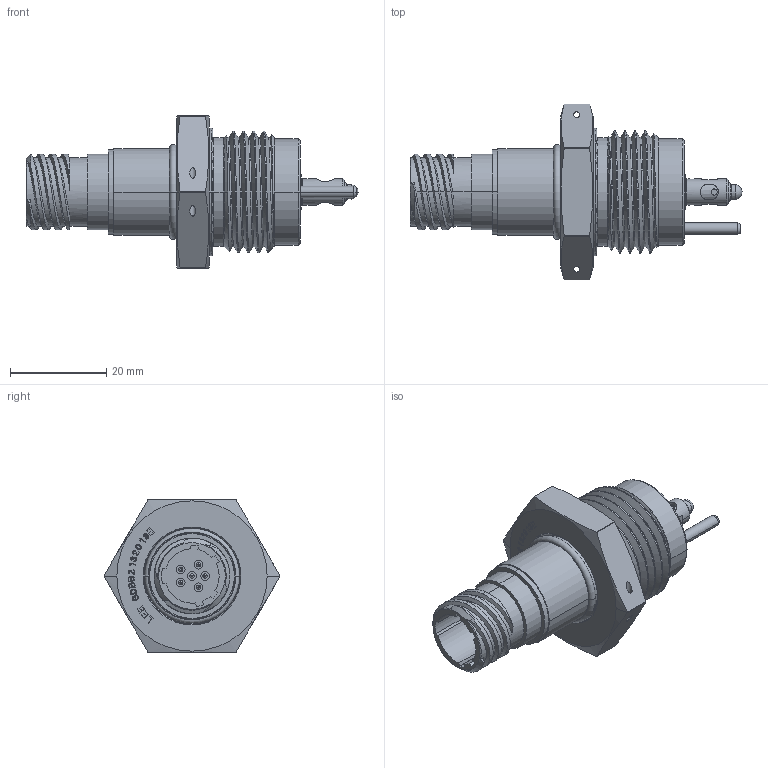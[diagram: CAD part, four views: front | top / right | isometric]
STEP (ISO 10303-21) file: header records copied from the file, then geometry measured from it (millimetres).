
FILE_DESCRIPTION(('Creo Elements/Direct Modeling STEP Export'),'2;1');
FILE_NAME('SDBB2132013E.stp','2021-03-30T11:14:23',(''),(''),'Creo Elements/Direct Modeling STEP processor for AP214 (Solid Model)','Creo Elements/Direct Modeling 18.1 03-Mar-2012 (C) Parametric Technology GmbH','');
FILE_SCHEMA(('AUTOMOTIVE_DESIGN { 1 0 10303 214 1 1 1 1 }'));
Length unit declared in the file: millimetre
Products named in the file (1): SDBB2132013E
Bounding box: 69.06 x 36.58 x 31.75 mm (x, y, z)
Volume: 19224.9 mm3; surface area: 7428 mm2
Topology: 1 solids, 1 shells, 831 faces, 2317 edges, 1540 vertices
Faces by surface type: plane 646, cylinder 116, cone 33, torus 26, bspline 8, sphere 2
Entity records: 28539 total; most frequent: CARTESIAN_POINT 7027, ORIENTED_EDGE 4630, DIRECTION 3733, EDGE_CURVE 2315, VECTOR 1839, LINE 1839, VERTEX_POINT 1540, AXIS2_PLACEMENT_3D 947
